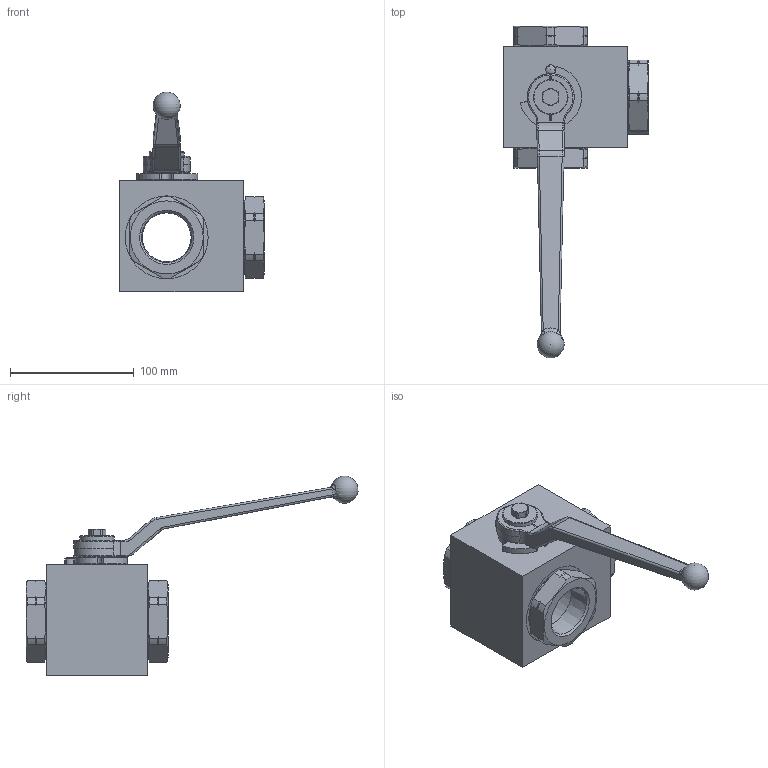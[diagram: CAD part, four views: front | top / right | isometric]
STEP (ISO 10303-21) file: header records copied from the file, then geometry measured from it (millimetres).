
FILE_DESCRIPTION( ( 'Unknown' ), '1' );
FILE_NAME( 'H:/PISTER/3D-MODELLE/BK3-Edelstahl stp/BK3-Edelst DN32 5_4 NPT.stp', 'Unknown', ( 'Unknown' ), ( 'Unknown' ), 'PSStep 14.0', 'Unknown', ' ' );
FILE_SCHEMA( ( 'AUTOMOTIVE_DESIGN { 1 0 10303 214 1 1 1 1 }' ) );
Length unit declared in the file: millimetre
Products named in the file (11): Assem1; 56-032-140-oa9; 09-17-002; 58-1473-020-oa10; 58-0440-008; 58-0933-262; 04-032-070-oa11; 04-032-070-oa12; 04-032-070-oa13; Griff_SW17_; 01-032-086-oa14
Assembly tree (10 placements, depth 2):
  Assem1
    56-032-140-oa9
    09-17-002
    58-1473-020-oa10
    58-0440-008
    58-0933-262
    04-032-070-oa11
    04-032-070-oa12
    04-032-070-oa13
    Griff_SW17_
    01-032-086-oa14
Bounding box: 116.9 x 268.32 x 161.5 mm (x, y, z)
Volume: 602074.4 mm3; surface area: 124832.3 mm2
Topology: 10 solids, 10 shells, 395 faces, 1030 edges, 655 vertices
Faces by surface type: cylinder 131, plane 119, cone 92, torus 32, bspline 18, sphere 3
Full cylindrical faces by diameter (mm): 6.647 x1, 7.98 x1, 8 x1, 9.2 x1, 24 x2, 28 x1, 30 x1, 32 x2, 39.136 x1, 40 x1, 48 x1, 52.3 x1, 53.835 x1, 56 x1, 56.2 x3, 56.35 x3, 60 x4, 67 x3
Entity records: 16928 total; most frequent: CARTESIAN_POINT 4554, DIRECTION 1876, ORIENTED_EDGE 1836, EDGE_CURVE 918, AXIS2_PLACEMENT_3D 780, VERTEX_POINT 624, EDGE_LOOP 494, FACE_OUTER_BOUND 440
